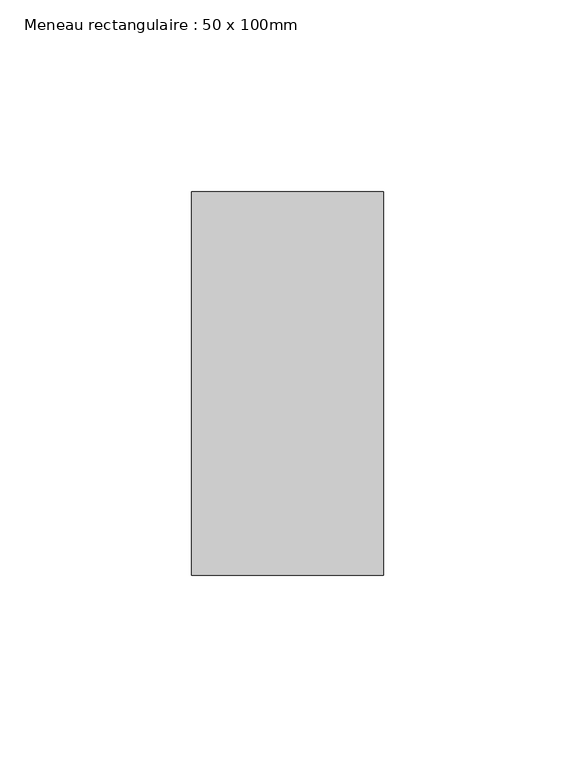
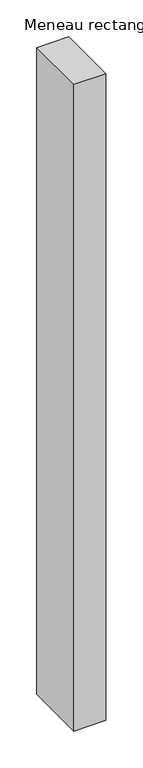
"""IFC4 building model written with IfcOpenShell, lengths in millimetres: member geometry, Meneau rectangulaire : 50 x 100mm."""

from ifc_helpers import new_model, si_unit, frame, origin, place, context, project, spatial, polyline, outline, extrude, source, transform, mapped, element, save


def meneau_rectangulaire_50_x_100mm_ca9cbeae(model_context):
    return source(origin(), model_context, "Body", "SweptSolid", [
        extrude(outline(polyline([(0.0, 50.0), (0.0, -50.0), (-50.0, -50.0), (-50.0, 50.0), (0.0, 50.0)])), frame((0.0, 0.0, -1068.2854498), z_axis=(0.0, 0.0, 1.0), x_axis=(1.0, 0.0, 0.0)), (0.0, 0.0, 1.0), 1068.2854498),
    ])


if __name__ == "__main__":
    model = new_model("IFC4")
    model_context = context("Model", 3, world=origin())
    ifc_project = project(units=[si_unit("LENGTHUNIT", "METRE", prefix="MILLI")], contexts=[model_context])
    site = spatial("IfcSite", under=ifc_project)
    building = spatial("IfcBuilding", under=site)
    placement = place(None, origin())
    meneau_rectangulaire_50_x_100mm_shape = meneau_rectangulaire_50_x_100mm_ca9cbeae(model_context)
    element("IfcMember", 1, ObjectType="Meneau rectangulaire : 50 x 100mm", at=placement, inside=building, context=model_context, shape_type="MappedRepresentation", body=[
        mapped(meneau_rectangulaire_50_x_100mm_shape, transform((0.0, 0.0, 0.0), x_axis=(1.0, 0.0, 0.0), y_axis=(0.0, 1.0, 0.0), z_axis=(0.0, 0.0, 1.0))),
    ])
    save(model, "model.ifc")
